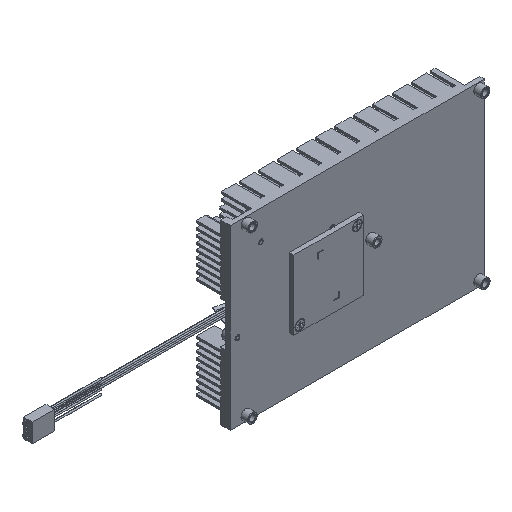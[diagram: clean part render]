
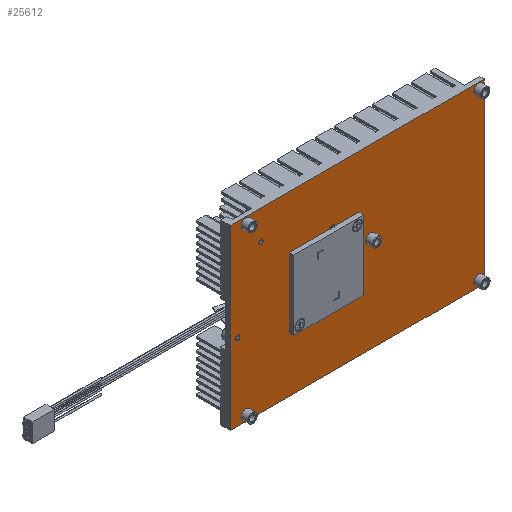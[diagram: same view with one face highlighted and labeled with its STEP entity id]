
A CAD part, isometric view. The second image highlights one B-rep face of the part: STEP entity #25612.
In plain terms, the highlighted planar face has unit normal (0, -1, 0).
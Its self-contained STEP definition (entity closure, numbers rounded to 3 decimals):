
#314=DIRECTION('',(1.,0.,0.));
#315=VECTOR('',#314,102.);
#316=CARTESIAN_POINT('',(-47.4,4.,0.));
#317=LINE('',#316,#315);
#5580=DIRECTION('',(0.,0.,1.));
#5581=VECTOR('',#5580,146.05);
#5582=CARTESIAN_POINT('',(54.6,4.,0.));
#5583=LINE('',#5582,#5581);
#5736=CARTESIAN_POINT('',(24.09,4.,45.35));
#5737=DIRECTION('',(0.,-1.,0.));
#5738=DIRECTION('',(0.,0.,1.));
#5739=AXIS2_PLACEMENT_3D('',#5736,#5737,#5738);
#5741=CARTESIAN_POINT('',(24.09,4.,45.35));
#5742=DIRECTION('',(0.,1.,0.));
#5743=DIRECTION('',(0.,0.,1.));
#5744=AXIS2_PLACEMENT_3D('',#5741,#5742,#5743);
#5746=CARTESIAN_POINT('',(51.025,4.,142.824));
#5747=DIRECTION('',(0.,1.,0.));
#5748=DIRECTION('',(0.,0.,-1.));
#5749=AXIS2_PLACEMENT_3D('',#5746,#5747,#5748);
#5751=CARTESIAN_POINT('',(51.025,4.,142.824));
#5752=DIRECTION('',(0.,1.,0.));
#5753=DIRECTION('',(0.,0.,1.));
#5754=AXIS2_PLACEMENT_3D('',#5751,#5752,#5753);
#5756=CARTESIAN_POINT('',(51.03,4.,8.89));
#5757=DIRECTION('',(0.,1.,0.));
#5758=DIRECTION('',(0.,0.,-1.));
#5759=AXIS2_PLACEMENT_3D('',#5756,#5757,#5758);
#5761=CARTESIAN_POINT('',(51.03,4.,8.89));
#5762=DIRECTION('',(0.,1.,0.));
#5763=DIRECTION('',(0.,0.,1.));
#5764=AXIS2_PLACEMENT_3D('',#5761,#5762,#5763);
#5766=CARTESIAN_POINT('',(-44.1,4.,9.02));
#5767=DIRECTION('',(0.,1.,0.));
#5768=DIRECTION('',(0.,0.,-1.));
#5769=AXIS2_PLACEMENT_3D('',#5766,#5767,#5768);
#5771=CARTESIAN_POINT('',(-44.1,4.,9.02));
#5772=DIRECTION('',(0.,1.,0.));
#5773=DIRECTION('',(0.,0.,1.));
#5774=AXIS2_PLACEMENT_3D('',#5771,#5772,#5773);
#5776=CARTESIAN_POINT('',(-44.1,4.,142.82));
#5777=DIRECTION('',(0.,1.,0.));
#5778=DIRECTION('',(0.,0.,-1.));
#5779=AXIS2_PLACEMENT_3D('',#5776,#5777,#5778);
#5781=CARTESIAN_POINT('',(-44.1,4.,142.82));
#5782=DIRECTION('',(0.,1.,0.));
#5783=DIRECTION('',(0.,0.,1.));
#5784=AXIS2_PLACEMENT_3D('',#5781,#5782,#5783);
#5786=CARTESIAN_POINT('',(-0.766,4.,80.714));
#5787=DIRECTION('',(0.,1.,0.));
#5788=DIRECTION('',(0.,0.,-1.));
#5789=AXIS2_PLACEMENT_3D('',#5786,#5787,#5788);
#5791=CARTESIAN_POINT('',(-0.766,4.,80.714));
#5792=DIRECTION('',(0.,1.,0.));
#5793=DIRECTION('',(0.,0.,1.));
#5794=AXIS2_PLACEMENT_3D('',#5791,#5792,#5793);
#5796=CARTESIAN_POINT('',(10.75,4.,4.28));
#5797=DIRECTION('',(0.,1.,0.));
#5798=DIRECTION('',(0.,0.,1.));
#5799=AXIS2_PLACEMENT_3D('',#5796,#5797,#5798);
#5801=CARTESIAN_POINT('',(10.75,4.,4.28));
#5802=DIRECTION('',(0.,1.,0.));
#5803=DIRECTION('',(0.,0.,-1.));
#5804=AXIS2_PLACEMENT_3D('',#5801,#5802,#5803);
#5806=CARTESIAN_POINT('',(-30.32,4.,17.63));
#5807=DIRECTION('',(0.,1.,0.));
#5808=DIRECTION('',(0.,0.,1.));
#5809=AXIS2_PLACEMENT_3D('',#5806,#5807,#5808);
#5811=CARTESIAN_POINT('',(-30.32,4.,17.63));
#5812=DIRECTION('',(0.,1.,0.));
#5813=DIRECTION('',(0.,0.,-1.));
#5814=AXIS2_PLACEMENT_3D('',#5811,#5812,#5813);
#5816=CARTESIAN_POINT('',(-16.98,4.,58.69));
#5817=DIRECTION('',(0.,-1.,0.));
#5818=DIRECTION('',(0.,0.,1.));
#5819=AXIS2_PLACEMENT_3D('',#5816,#5817,#5818);
#5821=CARTESIAN_POINT('',(-13.6,4.,70.35));
#5822=DIRECTION('',(0.,-1.,0.));
#5823=DIRECTION('',(0.,0.,1.));
#5824=AXIS2_PLACEMENT_3D('',#5821,#5822,#5823);
#5826=CARTESIAN_POINT('',(-13.6,4.,70.35));
#5827=DIRECTION('',(0.,-1.,0.));
#5828=DIRECTION('',(0.,0.,-1.));
#5829=AXIS2_PLACEMENT_3D('',#5826,#5827,#5828);
#5831=CARTESIAN_POINT('',(19.4,4.,37.35));
#5832=DIRECTION('',(0.,-1.,0.));
#5833=DIRECTION('',(0.,0.,1.));
#5834=AXIS2_PLACEMENT_3D('',#5831,#5832,#5833);
#5836=CARTESIAN_POINT('',(19.4,4.,37.35));
#5837=DIRECTION('',(0.,-1.,0.));
#5838=DIRECTION('',(0.,0.,-1.));
#5839=AXIS2_PLACEMENT_3D('',#5836,#5837,#5838);
#5951=CARTESIAN_POINT('',(-16.98,4.,58.69));
#5952=DIRECTION('',(0.,1.,0.));
#5953=DIRECTION('',(0.,0.,1.));
#5954=AXIS2_PLACEMENT_3D('',#5951,#5952,#5953);
#6863=DIRECTION('',(1.,0.,0.));
#6864=VECTOR('',#6863,102.);
#6865=CARTESIAN_POINT('',(-47.4,4.,146.05));
#6866=LINE('',#6865,#6864);
#8972=DIRECTION('',(0.,0.,1.));
#8973=VECTOR('',#8972,146.05);
#8974=CARTESIAN_POINT('',(-47.4,4.,0.));
#8975=LINE('',#8974,#8973);
#14964=CARTESIAN_POINT('',(51.025,4.,140.074));
#14965=CARTESIAN_POINT('',(51.025,4.,145.574));
#14966=VERTEX_POINT('',#14964);
#14967=VERTEX_POINT('',#14965);
#14968=CARTESIAN_POINT('',(51.03,4.,6.14));
#14969=CARTESIAN_POINT('',(51.03,4.,11.64));
#14970=VERTEX_POINT('',#14968);
#14971=VERTEX_POINT('',#14969);
#14972=CARTESIAN_POINT('',(-44.1,4.,6.27));
#14973=CARTESIAN_POINT('',(-44.1,4.,11.77));
#14974=VERTEX_POINT('',#14972);
#14975=VERTEX_POINT('',#14973);
#14976=CARTESIAN_POINT('',(-44.1,4.,140.07));
#14977=CARTESIAN_POINT('',(-44.1,4.,145.57));
#14978=VERTEX_POINT('',#14976);
#14979=VERTEX_POINT('',#14977);
#14980=CARTESIAN_POINT('',(-47.4,4.,0.));
#14981=CARTESIAN_POINT('',(54.6,4.,0.));
#14982=VERTEX_POINT('',#14980);
#14983=VERTEX_POINT('',#14981);
#14984=CARTESIAN_POINT('',(-47.4,4.,146.05));
#14985=CARTESIAN_POINT('',(54.6,4.,146.05));
#14986=VERTEX_POINT('',#14984);
#14987=VERTEX_POINT('',#14985);
#14988=CARTESIAN_POINT('',(-0.766,4.,77.964));
#14989=CARTESIAN_POINT('',(-0.766,4.,83.464));
#14990=VERTEX_POINT('',#14988);
#14991=VERTEX_POINT('',#14989);
#15240=CARTESIAN_POINT('',(10.75,4.,5.53));
#15241=CARTESIAN_POINT('',(10.75,4.,3.03));
#15242=VERTEX_POINT('',#15240);
#15243=VERTEX_POINT('',#15241);
#15244=CARTESIAN_POINT('',(24.09,4.,46.6));
#15245=CARTESIAN_POINT('',(24.09,4.,44.1));
#15246=VERTEX_POINT('',#15244);
#15247=VERTEX_POINT('',#15245);
#15248=CARTESIAN_POINT('',(-30.32,4.,18.88));
#15249=CARTESIAN_POINT('',(-30.32,4.,16.38));
#15250=VERTEX_POINT('',#15248);
#15251=VERTEX_POINT('',#15249);
#18788=CARTESIAN_POINT('',(-16.98,4.,59.94));
#18789=CARTESIAN_POINT('',(-16.98,4.,57.44));
#18790=VERTEX_POINT('',#18788);
#18791=VERTEX_POINT('',#18789);
#18792=CARTESIAN_POINT('',(-13.6,4.,71.85));
#18793=CARTESIAN_POINT('',(-13.6,4.,68.85));
#18794=VERTEX_POINT('',#18792);
#18795=VERTEX_POINT('',#18793);
#18796=CARTESIAN_POINT('',(19.4,4.,38.85));
#18797=CARTESIAN_POINT('',(19.4,4.,35.85));
#18798=VERTEX_POINT('',#18796);
#18799=VERTEX_POINT('',#18797);
#25533=CARTESIAN_POINT('',(0.,4.,0.));
#25534=DIRECTION('',(0.,-1.,0.));
#25535=DIRECTION('',(0.,0.,-1.));
#25536=AXIS2_PLACEMENT_3D('',#25533,#25534,#25535);
#25537=PLANE('',#25536);
#25538=ORIENTED_EDGE('',*,*,#19597,.F.);
#25540=ORIENTED_EDGE('',*,*,#25539,.T.);
#25542=ORIENTED_EDGE('',*,*,#25541,.T.);
#25543=ORIENTED_EDGE('',*,*,#25439,.F.);
#25544=EDGE_LOOP('',(#25538,#25540,#25542,#25543));
#25545=FACE_OUTER_BOUND('',#25544,.F.);
#25547=ORIENTED_EDGE('',*,*,#25546,.F.);
#25549=ORIENTED_EDGE('',*,*,#25548,.F.);
#25550=EDGE_LOOP('',(#25547,#25549));
#25551=FACE_BOUND('',#25550,.F.);
#25553=ORIENTED_EDGE('',*,*,#25552,.F.);
#25555=ORIENTED_EDGE('',*,*,#25554,.F.);
#25556=EDGE_LOOP('',(#25553,#25555));
#25557=FACE_BOUND('',#25556,.F.);
#25559=ORIENTED_EDGE('',*,*,#25558,.F.);
#25561=ORIENTED_EDGE('',*,*,#25560,.F.);
#25562=EDGE_LOOP('',(#25559,#25561));
#25563=FACE_BOUND('',#25562,.F.);
#25565=ORIENTED_EDGE('',*,*,#25564,.F.);
#25567=ORIENTED_EDGE('',*,*,#25566,.F.);
#25568=EDGE_LOOP('',(#25565,#25567));
#25569=FACE_BOUND('',#25568,.F.);
#25571=ORIENTED_EDGE('',*,*,#25570,.F.);
#25573=ORIENTED_EDGE('',*,*,#25572,.F.);
#25574=EDGE_LOOP('',(#25571,#25573));
#25575=FACE_BOUND('',#25574,.F.);
#25577=ORIENTED_EDGE('',*,*,#25576,.T.);
#25579=ORIENTED_EDGE('',*,*,#25578,.F.);
#25580=EDGE_LOOP('',(#25577,#25579));
#25581=FACE_BOUND('',#25580,.F.);
#25583=ORIENTED_EDGE('',*,*,#25582,.F.);
#25585=ORIENTED_EDGE('',*,*,#25584,.F.);
#25586=EDGE_LOOP('',(#25583,#25585));
#25587=FACE_BOUND('',#25586,.F.);
#25589=ORIENTED_EDGE('',*,*,#25588,.F.);
#25591=ORIENTED_EDGE('',*,*,#25590,.F.);
#25592=EDGE_LOOP('',(#25589,#25591));
#25593=FACE_BOUND('',#25592,.F.);
#25595=ORIENTED_EDGE('',*,*,#25594,.T.);
#25597=ORIENTED_EDGE('',*,*,#25596,.F.);
#25598=EDGE_LOOP('',(#25595,#25597));
#25599=FACE_BOUND('',#25598,.F.);
#25601=ORIENTED_EDGE('',*,*,#25600,.T.);
#25603=ORIENTED_EDGE('',*,*,#25602,.T.);
#25604=EDGE_LOOP('',(#25601,#25603));
#25605=FACE_BOUND('',#25604,.F.);
#25607=ORIENTED_EDGE('',*,*,#25606,.T.);
#25609=ORIENTED_EDGE('',*,*,#25608,.T.);
#25610=EDGE_LOOP('',(#25607,#25609));
#25611=FACE_BOUND('',#25610,.F.);
#25612=ADVANCED_FACE('',(#25545,#25551,#25557,#25563,#25569,#25575,#25581,
#25587,#25593,#25599,#25605,#25611),#25537,.T.);
#5740=CIRCLE('',#5739,1.25);
#5745=CIRCLE('',#5744,1.25);
#5750=CIRCLE('',#5749,2.75);
#5755=CIRCLE('',#5754,2.75);
#5760=CIRCLE('',#5759,2.75);
#5765=CIRCLE('',#5764,2.75);
#5770=CIRCLE('',#5769,2.75);
#5775=CIRCLE('',#5774,2.75);
#5780=CIRCLE('',#5779,2.75);
#5785=CIRCLE('',#5784,2.75);
#5790=CIRCLE('',#5789,2.75);
#5795=CIRCLE('',#5794,2.75);
#5800=CIRCLE('',#5799,1.25);
#5805=CIRCLE('',#5804,1.25);
#5810=CIRCLE('',#5809,1.25);
#5815=CIRCLE('',#5814,1.25);
#5820=CIRCLE('',#5819,1.25);
#5825=CIRCLE('',#5824,1.5);
#5830=CIRCLE('',#5829,1.5);
#5835=CIRCLE('',#5834,1.5);
#5840=CIRCLE('',#5839,1.5);
#5955=CIRCLE('',#5954,1.25);
#19597=EDGE_CURVE('',#14982,#14983,#317,.T.);
#25439=EDGE_CURVE('',#14983,#14987,#5583,.T.);
#25539=EDGE_CURVE('',#14982,#14986,#8975,.T.);
#25541=EDGE_CURVE('',#14986,#14987,#6866,.T.);
#25546=EDGE_CURVE('',#14966,#14967,#5750,.T.);
#25548=EDGE_CURVE('',#14967,#14966,#5755,.T.);
#25552=EDGE_CURVE('',#14970,#14971,#5760,.T.);
#25554=EDGE_CURVE('',#14971,#14970,#5765,.T.);
#25558=EDGE_CURVE('',#14974,#14975,#5770,.T.);
#25560=EDGE_CURVE('',#14975,#14974,#5775,.T.);
#25564=EDGE_CURVE('',#14978,#14979,#5780,.T.);
#25566=EDGE_CURVE('',#14979,#14978,#5785,.T.);
#25570=EDGE_CURVE('',#14990,#14991,#5790,.T.);
#25572=EDGE_CURVE('',#14991,#14990,#5795,.T.);
#25576=EDGE_CURVE('',#15246,#15247,#5740,.T.);
#25578=EDGE_CURVE('',#15246,#15247,#5745,.T.);
#25582=EDGE_CURVE('',#15242,#15243,#5800,.T.);
#25584=EDGE_CURVE('',#15243,#15242,#5805,.T.);
#25588=EDGE_CURVE('',#15250,#15251,#5810,.T.);
#25590=EDGE_CURVE('',#15251,#15250,#5815,.T.);
#25594=EDGE_CURVE('',#18790,#18791,#5820,.T.);
#25596=EDGE_CURVE('',#18790,#18791,#5955,.T.);
#25600=EDGE_CURVE('',#18794,#18795,#5825,.T.);
#25602=EDGE_CURVE('',#18795,#18794,#5830,.T.);
#25606=EDGE_CURVE('',#18798,#18799,#5835,.T.);
#25608=EDGE_CURVE('',#18799,#18798,#5840,.T.);
